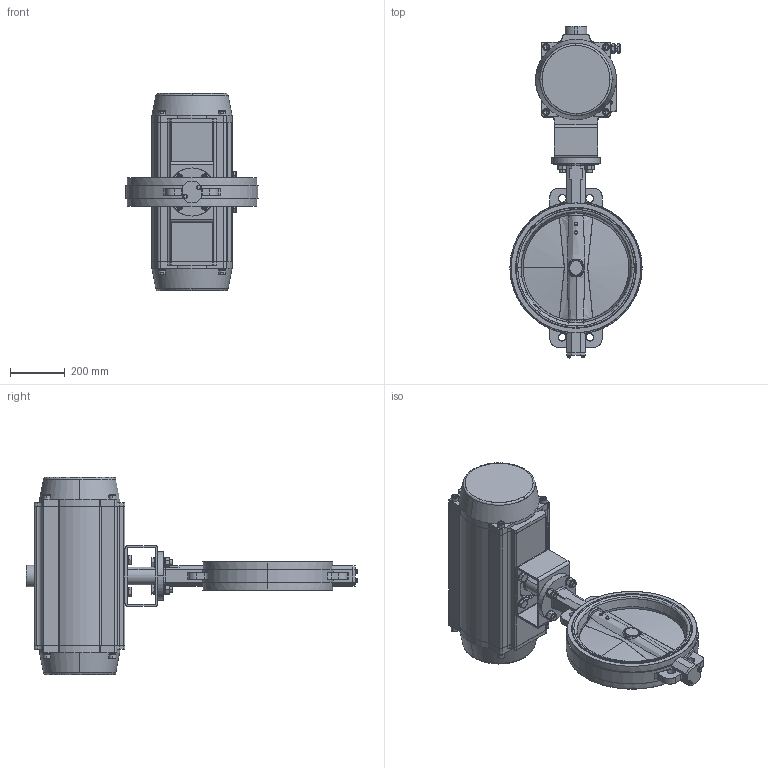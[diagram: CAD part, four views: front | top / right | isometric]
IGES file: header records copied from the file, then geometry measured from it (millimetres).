
Start section: SolidWorks IGES file using analytic representation for surfaces
Global section: file name: H:\BE BIBLIOTHEQUE 3D\BE SECTION 01 - ROBINETS A PAPILLON_VANNES PASSAGE DIRECTE\VP - Vanne Papillon\VPE\WORLDVALVE\WAFER\TECLARGE\VPE440X-N07\DN400\VPE440X-N07XX0400.IGS; native system: SolidWorks 2017; preprocessor: SolidWorks 2017; author: k.gigout; date: 200903.181534; units: millimetre
Bounding box: 481 x 1208.35 x 718 mm (x, y, z)
Surface area: 2295929.6 mm2 (no closed solid volume)
Topology: 0 solids, 0 shells, 830 faces, 16872 edges, 16856 vertices
Faces by surface type: bspline 458, revolution 372
